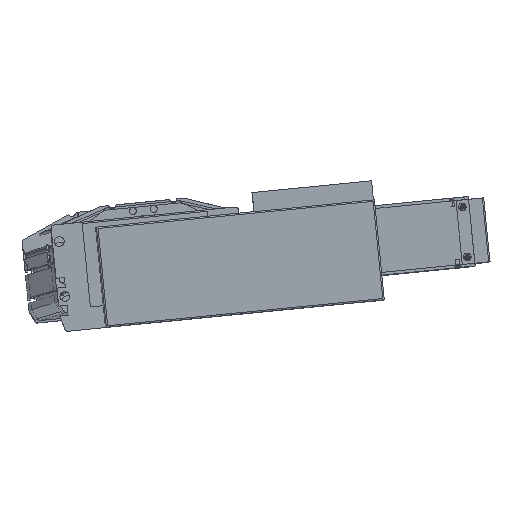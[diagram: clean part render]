
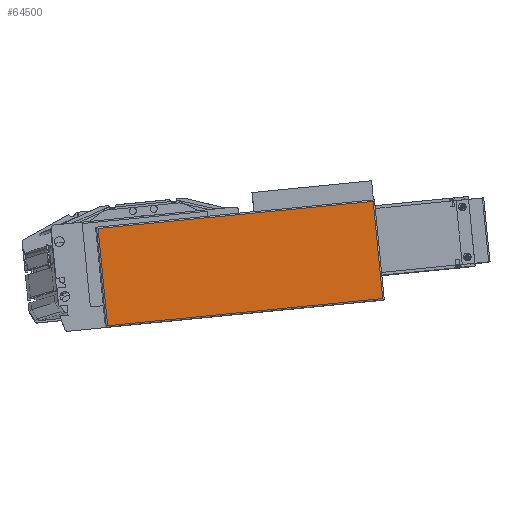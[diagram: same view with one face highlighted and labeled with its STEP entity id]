
A CAD part, top view. The second image highlights one B-rep face of the part: STEP entity #64500.
In plain terms, the highlighted planar face has unit normal (0.017, 0.003, 1) as drawn and (0, 0, 1) by its records, which use the part's own axes.
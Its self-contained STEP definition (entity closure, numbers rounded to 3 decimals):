
#315 = EDGE_CURVE ( 'NONE', #64604, #332, #62715, .T. ) ;
#332 = VERTEX_POINT ( 'NONE', #62741 ) ;
#384 = ORIENTED_EDGE ( 'NONE', *, *, #315, .T. ) ;
#437 = EDGE_CURVE ( 'NONE', #332, #64575, #62955, .T. ) ;
#12782 = FACE_OUTER_BOUND ( 'NONE', #64600, .T. ) ;
#13273 = DIRECTION ( 'NONE',  ( 1., 0., 0. ) ) ;
#13274 = DIRECTION ( 'NONE',  ( 0., 0., 1. ) ) ;
#13286 = CARTESIAN_POINT ( 'NONE',  ( -35.75, 0., 44. ) ) ;
#13290 = AXIS2_PLACEMENT_3D ( 'NONE', #13286, #13274, #13273 ) ;
#13300 = PLANE ( 'NONE',  #13290 ) ;
#13585 = CARTESIAN_POINT ( 'NONE',  ( -34.75, 1., 44. ) ) ;
#13650 = DIRECTION ( 'NONE',  ( 1., 0., 0. ) ) ;
#13652 = VECTOR ( 'NONE', #13650, 1000. ) ;
#13653 = CARTESIAN_POINT ( 'NONE',  ( 164.25, 1., 44. ) ) ;
#13654 = CARTESIAN_POINT ( 'NONE',  ( 163.25, 1., 44. ) ) ;
#13658 = LINE ( 'NONE', #13653, #13652 ) ;
#13681 = CARTESIAN_POINT ( 'NONE',  ( 163.25, 71., 44. ) ) ;
#13753 = DIRECTION ( 'NONE',  ( 0., 1., 0. ) ) ;
#13755 = VECTOR ( 'NONE', #13753, 1000. ) ;
#13765 = CARTESIAN_POINT ( 'NONE',  ( 163.25, 72., 44. ) ) ;
#13767 = LINE ( 'NONE', #13765, #13755 ) ;
#62708 = DIRECTION ( 'NONE',  ( -1., 0., 0. ) ) ;
#62709 = VECTOR ( 'NONE', #62708, 1000. ) ;
#62710 = CARTESIAN_POINT ( 'NONE',  ( -35.75, 71., 44. ) ) ;
#62715 = LINE ( 'NONE', #62710, #62709 ) ;
#62741 = CARTESIAN_POINT ( 'NONE',  ( -34.75, 71., 44. ) ) ;
#62948 = DIRECTION ( 'NONE',  ( 0., -1., 0. ) ) ;
#62949 = VECTOR ( 'NONE', #62948, 1000. ) ;
#62955 = LINE ( 'NONE', #62957, #62949 ) ;
#62957 = CARTESIAN_POINT ( 'NONE',  ( -34.75, 0., 44. ) ) ;
#64500 = ADVANCED_FACE ( 'NONE', ( #12782 ), #13300, .T. ) ;
#64573 = ORIENTED_EDGE ( 'NONE', *, *, #64608, .T. ) ;
#64575 = VERTEX_POINT ( 'NONE', #13585 ) ;
#64576 = EDGE_CURVE ( 'NONE', #64575, #64579, #13658, .T. ) ;
#64579 = VERTEX_POINT ( 'NONE', #13654 ) ;
#64587 = ORIENTED_EDGE ( 'NONE', *, *, #64576, .T. ) ;
#64600 = EDGE_LOOP ( 'NONE', ( #64587, #64573, #384, #64626 ) ) ;
#64604 = VERTEX_POINT ( 'NONE', #13681 ) ;
#64608 = EDGE_CURVE ( 'NONE', #64579, #64604, #13767, .T. ) ;
#64626 = ORIENTED_EDGE ( 'NONE', *, *, #437, .T. ) ;
